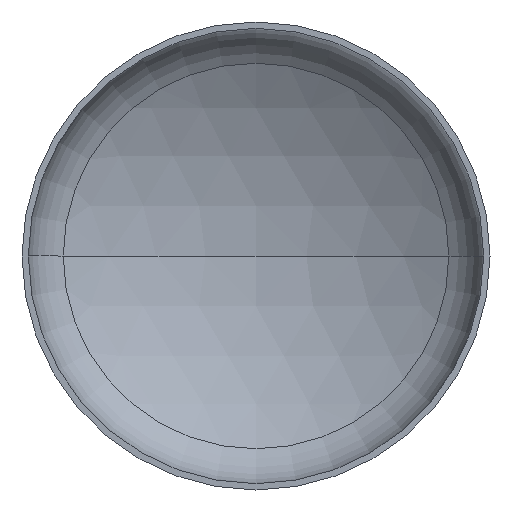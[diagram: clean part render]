
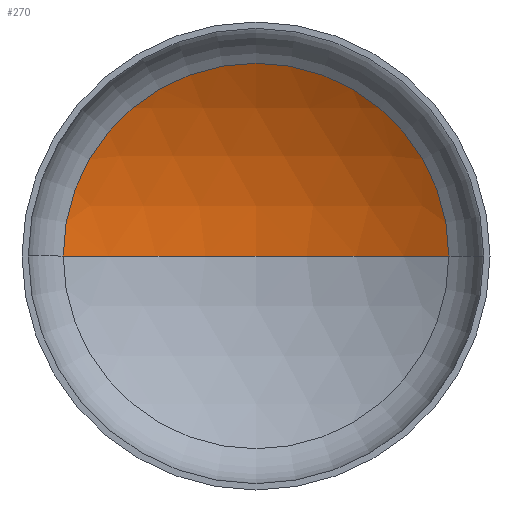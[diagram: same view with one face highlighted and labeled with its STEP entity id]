
A CAD part, front view. The second image highlights one B-rep face of the part: STEP entity #270.
In plain terms, the highlighted spherical face has radius 2240 mm.
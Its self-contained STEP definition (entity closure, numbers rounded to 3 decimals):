
#3 = ORIENTED_EDGE ( 'NONE', *, *, #347, .T. ) ;
#18 = AXIS2_PLACEMENT_3D ( 'NONE', #342, #246, #141 ) ;
#19 = AXIS2_PLACEMENT_3D ( 'NONE', #123, #269, #39 ) ;
#20 = AXIS2_PLACEMENT_3D ( 'NONE', #251, #178, #364 ) ;
#33 = AXIS2_PLACEMENT_3D ( 'NONE', #258, #199, #203 ) ;
#39 = DIRECTION ( 'NONE',  ( -1., 0., 0. ) ) ;
#55 = VERTEX_POINT ( 'NONE', #337 ) ;
#65 = EDGE_LOOP ( 'NONE', ( #115, #3, #249 ) ) ;
#109 = CIRCLE ( 'NONE', #20, 1153.414 ) ;
#115 = ORIENTED_EDGE ( 'NONE', *, *, #350, .F. ) ;
#123 = CARTESIAN_POINT ( 'NONE',  ( 0., -1431.604, 0. ) ) ;
#132 = VERTEX_POINT ( 'NONE', #193 ) ;
#141 = DIRECTION ( 'NONE',  ( 1., 0., 0. ) ) ;
#144 = CARTESIAN_POINT ( 'NONE',  ( 1153.414, 488.613, 0. ) ) ;
#178 = DIRECTION ( 'NONE',  ( 0., -1., 0. ) ) ;
#193 = CARTESIAN_POINT ( 'NONE',  ( 0., 808.396, 0. ) ) ;
#199 = DIRECTION ( 'NONE',  ( 0., 0., -1. ) ) ;
#200 = CIRCLE ( 'NONE', #18, 2240. ) ;
#203 = DIRECTION ( 'NONE',  ( -1., 0., 0. ) ) ;
#234 = SPHERICAL_SURFACE ( 'NONE', #33, 2240. ) ;
#236 = VERTEX_POINT ( 'NONE', #144 ) ;
#246 = DIRECTION ( 'NONE',  ( 0., 0., 1. ) ) ;
#249 = ORIENTED_EDGE ( 'NONE', *, *, #343, .T. ) ;
#251 = CARTESIAN_POINT ( 'NONE',  ( 0., 488.613, 0. ) ) ;
#258 = CARTESIAN_POINT ( 'NONE',  ( 0., -1431.604, 0. ) ) ;
#269 = DIRECTION ( 'NONE',  ( 0., 0., -1. ) ) ;
#270 = ADVANCED_FACE ( 'NONE', ( #361 ), #234, .F. ) ;
#337 = CARTESIAN_POINT ( 'NONE',  ( -1153.414, 488.613, 0. ) ) ;
#339 = CIRCLE ( 'NONE', #19, 2240. ) ;
#342 = CARTESIAN_POINT ( 'NONE',  ( 0., -1431.604, 0. ) ) ;
#343 = EDGE_CURVE ( 'NONE', #236, #55, #109, .T. ) ;
#347 = EDGE_CURVE ( 'NONE', #132, #236, #339, .T. ) ;
#350 = EDGE_CURVE ( 'NONE', #132, #55, #200, .T. ) ;
#361 = FACE_OUTER_BOUND ( 'NONE', #65, .T. ) ;
#364 = DIRECTION ( 'NONE',  ( 1., 0., 0. ) ) ;
